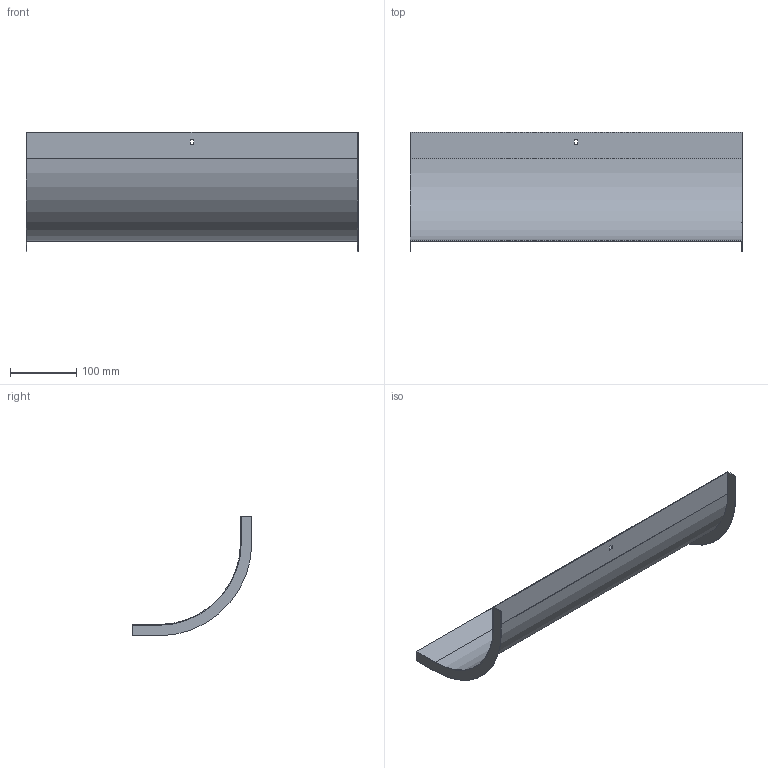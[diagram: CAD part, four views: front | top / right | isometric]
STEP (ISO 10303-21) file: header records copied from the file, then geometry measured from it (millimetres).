
FILE_DESCRIPTION (( 'STEP AP214' ), '1' );
FILE_NAME ('OS9_500.step', '2025-07-16T09:17:39', ( '' ), ( '' ), 'SwSTEP 2.0', 'SolidWorks 2023', '' );
FILE_SCHEMA (( 'AUTOMOTIVE_DESIGN' ));
Length unit declared in the file: millimetre
Products named in the file (1): OS9_500
Bounding box: 502 x 181 x 181 mm (x, y, z)
Volume: 147494.5 mm3; surface area: 296710.4 mm2
Topology: 1 solids, 1 shells, 26 faces, 72 edges, 48 vertices
Faces by surface type: plane 22, cylinder 4
Entity records: 855 total; most frequent: CARTESIAN_POINT 147, ORIENTED_EDGE 144, DIRECTION 134, EDGE_CURVE 72, LINE 64, VECTOR 64, VERTEX_POINT 48, AXIS2_PLACEMENT_3D 35
